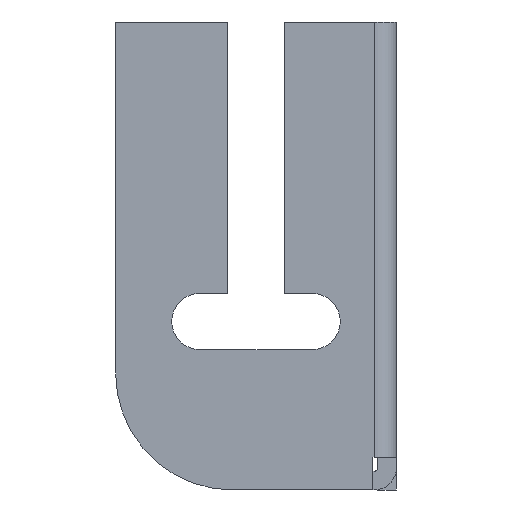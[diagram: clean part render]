
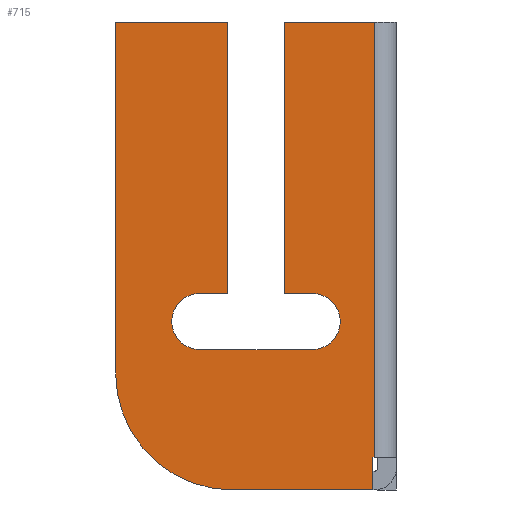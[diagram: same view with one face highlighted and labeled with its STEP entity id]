
A CAD part, left-side view. The second image highlights one B-rep face of the part: STEP entity #715.
In plain terms, the highlighted planar face has unit normal (-1, 0, 0).
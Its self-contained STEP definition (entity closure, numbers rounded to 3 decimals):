
#1 = DIRECTION ( 'NONE',  ( 0., -1., 0. ) ) ;
#32 = EDGE_CURVE ( 'NONE', #1490, #371, #710, .T. ) ;
#33 = EDGE_CURVE ( 'NONE', #1151, #1472, #1127, .T. ) ;
#35 = LINE ( 'NONE', #1527, #1929 ) ;
#46 = ORIENTED_EDGE ( 'NONE', *, *, #455, .T. ) ;
#49 = AXIS2_PLACEMENT_3D ( 'NONE', #138, #759, #1221 ) ;
#63 = DIRECTION ( 'NONE',  ( 0., 0., -1. ) ) ;
#67 = DIRECTION ( 'NONE',  ( 1., 0., 0. ) ) ;
#91 = CARTESIAN_POINT ( 'NONE',  ( -4., 14., -64. ) ) ;
#93 = LINE ( 'NONE', #1926, #699 ) ;
#99 = CARTESIAN_POINT ( 'NONE',  ( -4., 20., -58. ) ) ;
#102 = VERTEX_POINT ( 'NONE', #766 ) ;
#105 = CARTESIAN_POINT ( 'NONE',  ( -4., -4., -93. ) ) ;
#112 = ORIENTED_EDGE ( 'NONE', *, *, #1315, .F. ) ;
#138 = CARTESIAN_POINT ( 'NONE',  ( -4., 0., 0. ) ) ;
#141 = CIRCLE ( 'NONE', #1810, 25. ) ;
#199 = CIRCLE ( 'NONE', #1867, 6. ) ;
#229 = CARTESIAN_POINT ( 'NONE',  ( -4., 20., 0. ) ) ;
#241 = CARTESIAN_POINT ( 'NONE',  ( -4., 14., -70. ) ) ;
#253 = VECTOR ( 'NONE', #1573, 1000. ) ;
#274 = LINE ( 'NONE', #1065, #414 ) ;
#276 = ORIENTED_EDGE ( 'NONE', *, *, #676, .F. ) ;
#279 = ORIENTED_EDGE ( 'NONE', *, *, #32, .F. ) ;
#300 = CIRCLE ( 'NONE', #1420, 6. ) ;
#303 = ORIENTED_EDGE ( 'NONE', *, *, #853, .T. ) ;
#305 = DIRECTION ( 'NONE',  ( 0., 1., 0. ) ) ;
#309 = DIRECTION ( 'NONE',  ( 0., 0., 1. ) ) ;
#314 = CARTESIAN_POINT ( 'NONE',  ( -4., 0., -58. ) ) ;
#337 = DIRECTION ( 'NONE',  ( 0., -1., 0. ) ) ;
#343 = VERTEX_POINT ( 'NONE', #795 ) ;
#346 = ORIENTED_EDGE ( 'NONE', *, *, #1100, .F. ) ;
#367 = FACE_OUTER_BOUND ( 'NONE', #1813, .T. ) ;
#371 = VERTEX_POINT ( 'NONE', #1397 ) ;
#373 = EDGE_CURVE ( 'NONE', #1461, #1192, #577, .T. ) ;
#375 = DIRECTION ( 'NONE',  ( -1., 0., 0. ) ) ;
#376 = DIRECTION ( 'NONE',  ( 1., 0., 0. ) ) ;
#382 = EDGE_CURVE ( 'NONE', #912, #555, #199, .T. ) ;
#402 = EDGE_CURVE ( 'NONE', #1088, #1030, #512, .T. ) ;
#403 = VECTOR ( 'NONE', #1, 1000. ) ;
#414 = VECTOR ( 'NONE', #305, 1000. ) ;
#438 = LINE ( 'NONE', #105, #1251 ) ;
#455 = EDGE_CURVE ( 'NONE', #1461, #1871, #1413, .T. ) ;
#458 = EDGE_CURVE ( 'NONE', #996, #1088, #300, .T. ) ;
#486 = ORIENTED_EDGE ( 'NONE', *, *, #1732, .T. ) ;
#512 = LINE ( 'NONE', #1902, #253 ) ;
#555 = VERTEX_POINT ( 'NONE', #241 ) ;
#560 = DIRECTION ( 'NONE',  ( 0., 0., -1. ) ) ;
#561 = VECTOR ( 'NONE', #716, 1000. ) ;
#571 = VECTOR ( 'NONE', #1749, 1000. ) ;
#577 = LINE ( 'NONE', #1261, #1832 ) ;
#586 = CARTESIAN_POINT ( 'NONE',  ( -4., 0.737, 0. ) ) ;
#589 = PLANE ( 'NONE',  #49 ) ;
#606 = VECTOR ( 'NONE', #560, 1000. ) ;
#672 = CARTESIAN_POINT ( 'NONE',  ( -4., 32., 0. ) ) ;
#676 = EDGE_CURVE ( 'NONE', #371, #102, #274, .T. ) ;
#695 = CARTESIAN_POINT ( 'NONE',  ( -4., 38., -58. ) ) ;
#699 = VECTOR ( 'NONE', #1307, 1000. ) ;
#700 = DIRECTION ( 'NONE',  ( 0., -1., 0. ) ) ;
#702 = VECTOR ( 'NONE', #309, 1000. ) ;
#705 = ORIENTED_EDGE ( 'NONE', *, *, #33, .F. ) ;
#710 = LINE ( 'NONE', #1967, #606 ) ;
#715 = ADVANCED_FACE ( 'NONE', ( #367 ), #589, .T. ) ;
#716 = DIRECTION ( 'NONE',  ( 0., 0., 1. ) ) ;
#759 = DIRECTION ( 'NONE',  ( -1., 0., 0. ) ) ;
#766 = CARTESIAN_POINT ( 'NONE',  ( -4., 31., -100. ) ) ;
#795 = CARTESIAN_POINT ( 'NONE',  ( -4., 0.737, -93. ) ) ;
#841 = CARTESIAN_POINT ( 'NONE',  ( -4., 38., -70. ) ) ;
#842 = CARTESIAN_POINT ( 'NONE',  ( -4., 14., -64. ) ) ;
#853 = EDGE_CURVE ( 'NONE', #343, #1192, #1122, .T. ) ;
#912 = VERTEX_POINT ( 'NONE', #1590 ) ;
#919 = ORIENTED_EDGE ( 'NONE', *, *, #1544, .T. ) ;
#942 = ORIENTED_EDGE ( 'NONE', *, *, #1418, .T. ) ;
#970 = ORIENTED_EDGE ( 'NONE', *, *, #1286, .T. ) ;
#982 = LINE ( 'NONE', #314, #403 ) ;
#996 = VERTEX_POINT ( 'NONE', #841 ) ;
#1026 = DIRECTION ( 'NONE',  ( 0., 1., 0. ) ) ;
#1028 = CARTESIAN_POINT ( 'NONE',  ( -4., 56., -75. ) ) ;
#1030 = VERTEX_POINT ( 'NONE', #1625 ) ;
#1065 = CARTESIAN_POINT ( 'NONE',  ( -4., 56., -100. ) ) ;
#1088 = VERTEX_POINT ( 'NONE', #695 ) ;
#1100 = EDGE_CURVE ( 'NONE', #343, #1490, #438, .T. ) ;
#1122 = LINE ( 'NONE', #1842, #702 ) ;
#1127 = LINE ( 'NONE', #1628, #561 ) ;
#1133 = ORIENTED_EDGE ( 'NONE', *, *, #373, .F. ) ;
#1137 = DIRECTION ( 'NONE',  ( 0., -1., 0. ) ) ;
#1141 = CARTESIAN_POINT ( 'NONE',  ( -4., 38., -64. ) ) ;
#1151 = VERTEX_POINT ( 'NONE', #1028 ) ;
#1190 = ORIENTED_EDGE ( 'NONE', *, *, #402, .T. ) ;
#1192 = VERTEX_POINT ( 'NONE', #586 ) ;
#1221 = DIRECTION ( 'NONE',  ( 0., -1., 0. ) ) ;
#1231 = VERTEX_POINT ( 'NONE', #1583 ) ;
#1251 = VECTOR ( 'NONE', #1026, 1000. ) ;
#1259 = ORIENTED_EDGE ( 'NONE', *, *, #2012, .T. ) ;
#1261 = CARTESIAN_POINT ( 'NONE',  ( -4., 0., 0. ) ) ;
#1286 = EDGE_CURVE ( 'NONE', #1151, #102, #141, .T. ) ;
#1291 = DIRECTION ( 'NONE',  ( 0., -1., 0. ) ) ;
#1299 = VERTEX_POINT ( 'NONE', #1591 ) ;
#1307 = DIRECTION ( 'NONE',  ( 0., -1., 0. ) ) ;
#1315 = EDGE_CURVE ( 'NONE', #1472, #1299, #93, .T. ) ;
#1329 = ORIENTED_EDGE ( 'NONE', *, *, #382, .T. ) ;
#1397 = CARTESIAN_POINT ( 'NONE',  ( -4., 1., -100. ) ) ;
#1399 = AXIS2_PLACEMENT_3D ( 'NONE', #91, #67, #700 ) ;
#1413 = LINE ( 'NONE', #1597, #1809 ) ;
#1415 = DIRECTION ( 'NONE',  ( 1., 0., 0. ) ) ;
#1418 = EDGE_CURVE ( 'NONE', #1030, #1299, #1575, .T. ) ;
#1420 = AXIS2_PLACEMENT_3D ( 'NONE', #1141, #1415, #1291 ) ;
#1431 = CARTESIAN_POINT ( 'NONE',  ( -4., 31., -75. ) ) ;
#1460 = CARTESIAN_POINT ( 'NONE',  ( -4., 1., -93. ) ) ;
#1461 = VERTEX_POINT ( 'NONE', #229 ) ;
#1472 = VERTEX_POINT ( 'NONE', #1904 ) ;
#1490 = VERTEX_POINT ( 'NONE', #1460 ) ;
#1527 = CARTESIAN_POINT ( 'NONE',  ( -4., 0., -70. ) ) ;
#1538 = DIRECTION ( 'NONE',  ( 0., 1., 0. ) ) ;
#1544 = EDGE_CURVE ( 'NONE', #555, #996, #35, .T. ) ;
#1573 = DIRECTION ( 'NONE',  ( 0., -1., 0. ) ) ;
#1575 = LINE ( 'NONE', #672, #571 ) ;
#1583 = CARTESIAN_POINT ( 'NONE',  ( -4., 14., -58. ) ) ;
#1590 = CARTESIAN_POINT ( 'NONE',  ( -4., 8., -64. ) ) ;
#1591 = CARTESIAN_POINT ( 'NONE',  ( -4., 32., 0. ) ) ;
#1597 = CARTESIAN_POINT ( 'NONE',  ( -4., 20., 0. ) ) ;
#1604 = CIRCLE ( 'NONE', #1399, 6. ) ;
#1625 = CARTESIAN_POINT ( 'NONE',  ( -4., 32., -58. ) ) ;
#1628 = CARTESIAN_POINT ( 'NONE',  ( -4., 56., 0. ) ) ;
#1732 = EDGE_CURVE ( 'NONE', #1231, #912, #1604, .T. ) ;
#1749 = DIRECTION ( 'NONE',  ( 0., 0., 1. ) ) ;
#1758 = ORIENTED_EDGE ( 'NONE', *, *, #458, .T. ) ;
#1763 = DIRECTION ( 'NONE',  ( 0., -1., 0. ) ) ;
#1809 = VECTOR ( 'NONE', #63, 1000. ) ;
#1810 = AXIS2_PLACEMENT_3D ( 'NONE', #1431, #375, #1763 ) ;
#1813 = EDGE_LOOP ( 'NONE', ( #279, #346, #303, #1133, #46, #1259, #486, #1329, #919, #1758, #1190, #942, #112, #705, #970, #276 ) ) ;
#1832 = VECTOR ( 'NONE', #337, 1000. ) ;
#1842 = CARTESIAN_POINT ( 'NONE',  ( -4., 0.737, 0. ) ) ;
#1867 = AXIS2_PLACEMENT_3D ( 'NONE', #842, #376, #1137 ) ;
#1871 = VERTEX_POINT ( 'NONE', #99 ) ;
#1902 = CARTESIAN_POINT ( 'NONE',  ( -4., 0., -58. ) ) ;
#1904 = CARTESIAN_POINT ( 'NONE',  ( -4., 56., 0. ) ) ;
#1926 = CARTESIAN_POINT ( 'NONE',  ( -4., 0., 0. ) ) ;
#1929 = VECTOR ( 'NONE', #1538, 1000. ) ;
#1967 = CARTESIAN_POINT ( 'NONE',  ( -4., 1., -100. ) ) ;
#2012 = EDGE_CURVE ( 'NONE', #1871, #1231, #982, .T. ) ;
